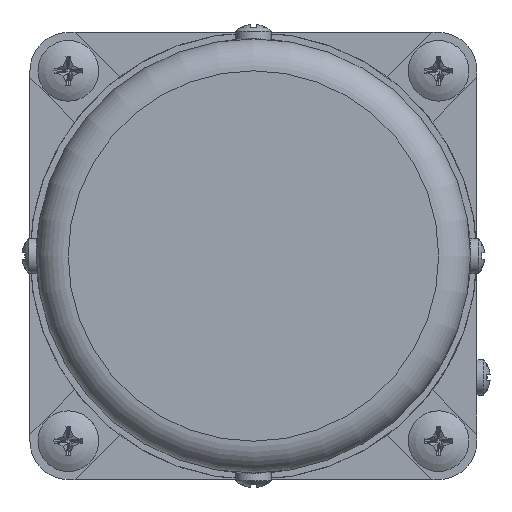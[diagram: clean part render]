
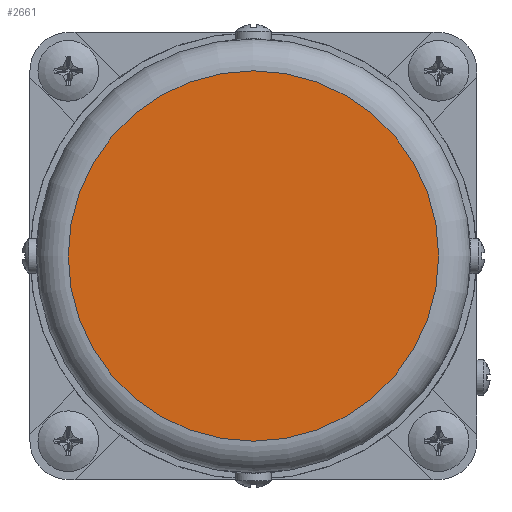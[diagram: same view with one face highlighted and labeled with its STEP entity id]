
A CAD part, left-side view. The second image highlights one B-rep face of the part: STEP entity #2661.
In plain terms, the highlighted planar face has unit normal (-1, 0, 0).
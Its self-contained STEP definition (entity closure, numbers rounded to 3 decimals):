
#1947=FACE_OUTER_BOUND('',#3848,.T.);
#2163=PLANE('',#8566);
#2661=ADVANCED_FACE('',(#1947),#2163,.F.);
#3848=EDGE_LOOP('',(#5326));
#5326=ORIENTED_EDGE('',*,*,#7230,.T.);
#6367=VERTEX_POINT('',#13689);
#7230=EDGE_CURVE('',#6367,#6367,#7770,.T.);
#7770=CIRCLE('',#8565,29.);
#8565=AXIS2_PLACEMENT_3D('',#13688,#9859,#9860);
#8566=AXIS2_PLACEMENT_3D('',#13690,#9861,#9862);
#9859=DIRECTION('',(-1.,0.,0.));
#9860=DIRECTION('',(0.,0.,1.));
#9861=DIRECTION('',(1.,0.,0.));
#9862=DIRECTION('',(0.,0.,1.));
#13688=CARTESIAN_POINT('',(-134.,0.,0.));
#13689=CARTESIAN_POINT('',(-134.,0.,29.));
#13690=CARTESIAN_POINT('',(-134.,0.,0.));
